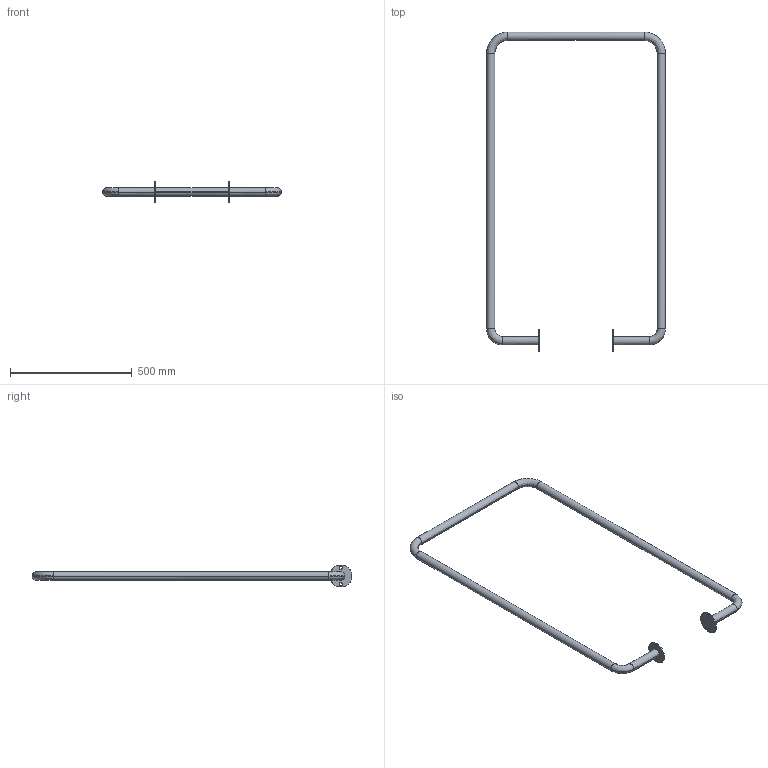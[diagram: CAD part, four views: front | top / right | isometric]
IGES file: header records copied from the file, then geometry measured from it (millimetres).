
Start section:  PTC IGES file: 52390742.igs
Global section: file name: 52390742.igs; native system: Creo Parametric by PTC Inc.; preprocessor: 2022162; author: wep; organization: Unknown; date: 20250721.084817; units: millimetre
Bounding box: 734 x 1312 x 90 mm (x, y, z)
Surface area: 397127.7 mm2 (no closed solid volume)
Topology: 0 solids, 0 shells, 34 faces, 148 edges, 148 vertices
Faces by surface type: revolution 30, bspline 4
